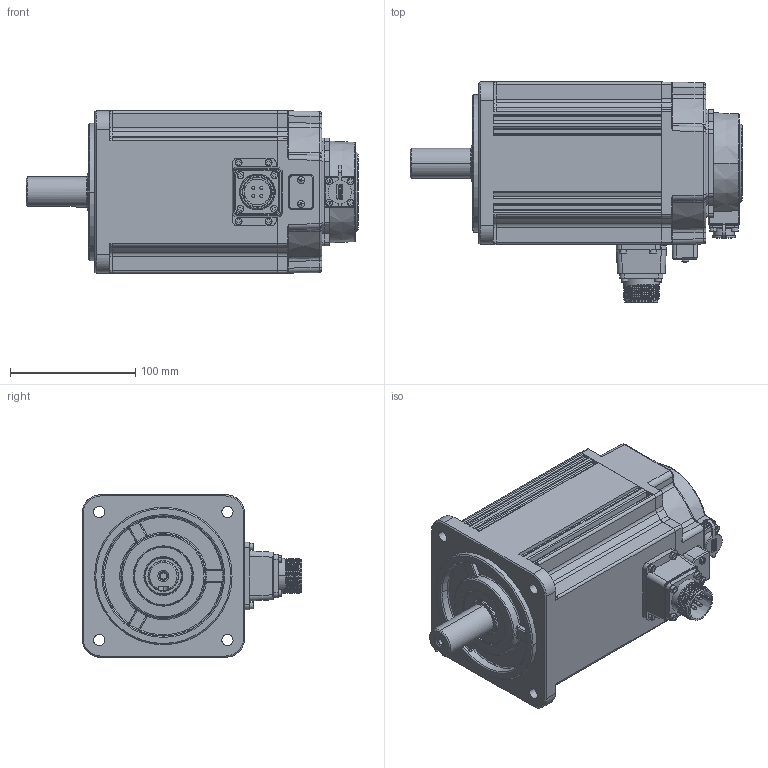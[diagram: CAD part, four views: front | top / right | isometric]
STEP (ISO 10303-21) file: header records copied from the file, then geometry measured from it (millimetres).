
FILE_DESCRIPTION(('FreeCAD Model'),'2;1');
FILE_NAME('Open CASCADE Shape Model','2025-03-17T14:23:19',('Author'),( ''),'Open CASCADE STEP processor 7.6','FreeCAD','Unknown');
FILE_SCHEMA(('AUTOMOTIVE_DESIGN { 1 0 10303 214 1 1 1 1 }'));
Length unit declared in the file: millimetre
Products named in the file (46): PSM6G-130CS15BZ2-22P3; PSM6G-130CS15BZ2-22P004; PSM6G-130CS15BZ2-22P005; PSM6G-130CS15BZ2-22P006; PSM6G-130CS15BZ2-22P007; PSM6G-130CS15BZ2-22P008; PSM6G-130CS15BZ2-22P009; PSM6G-130CS15BZ2-22P010; PSM6G-130CS15BZ2-22P011; PSM6G-130CS15BZ2-22P012; PSM6G-130CS15BZ2-22P013; PSM6G-130CS15BZ2-22P014; PSM6G-130CS15BZ2-22P015; PSM6G-130CS15BZ2-22P016; PSM6G-130CS15BZ2-22P017; PSM6G-130CS15BZ2-22P018; PSM6G-130CS15BZ2-22P019; PSM6G-130CS15BZ2-22P020; PSM6G-130CS15BZ2-22P021; PSM6G-130CS15BZ2-22P022; PSM6G-130CS15BZ2-22P023; PSM6G-130CS15BZ2-22P024; PSM6G-130CS15BZ2-22P025; PSM6G-130CS15BZ2-22P026; PSM6G-130CS15BZ2-22P027; PSM6G-130CS15BZ2-22P028; PSM6G-130CS15BZ2-22P029; PSM6G-130CS15BZ2-22P030; PSM6G-130CS15BZ2-22P031; PSM6G-130CS15BZ2-22P032; PSM6G-130CS15BZ2-22P033; PSM6G-130CS15BZ2-22P034; PSM6G-130CS15BZ2-22P035; PSM6G-130CS15BZ2-22P036; PSM6G-130CS15BZ2-22P037; PSM6G-130CS15BZ2-22P038; PSM6G-130CS15BZ2-22P039; PSM6G-130CS15BZ2-22P040; PSM6G-130CS15BZ2-22P041; PSM6G-130CS15BZ2-22P042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
Assembly tree (45 placements, depth 2):
  PSM6G-130CS15BZ2-22P3
    PSM6G-130CS15BZ2-22P004
    PSM6G-130CS15BZ2-22P005
    PSM6G-130CS15BZ2-22P006
    PSM6G-130CS15BZ2-22P007
    PSM6G-130CS15BZ2-22P008
    PSM6G-130CS15BZ2-22P009
    PSM6G-130CS15BZ2-22P010
    PSM6G-130CS15BZ2-22P011
    PSM6G-130CS15BZ2-22P012
    PSM6G-130CS15BZ2-22P013
    PSM6G-130CS15BZ2-22P014
    PSM6G-130CS15BZ2-22P015
    PSM6G-130CS15BZ2-22P016
    PSM6G-130CS15BZ2-22P017
    PSM6G-130CS15BZ2-22P018
    PSM6G-130CS15BZ2-22P019
    PSM6G-130CS15BZ2-22P020
    PSM6G-130CS15BZ2-22P021
    PSM6G-130CS15BZ2-22P022
    PSM6G-130CS15BZ2-22P023
    PSM6G-130CS15BZ2-22P024
    PSM6G-130CS15BZ2-22P025
    PSM6G-130CS15BZ2-22P026
    PSM6G-130CS15BZ2-22P027
    PSM6G-130CS15BZ2-22P028
    PSM6G-130CS15BZ2-22P029
    PSM6G-130CS15BZ2-22P030
    PSM6G-130CS15BZ2-22P031
    PSM6G-130CS15BZ2-22P032
    PSM6G-130CS15BZ2-22P033
    PSM6G-130CS15BZ2-22P034
    PSM6G-130CS15BZ2-22P035
    PSM6G-130CS15BZ2-22P036
    PSM6G-130CS15BZ2-22P037
    PSM6G-130CS15BZ2-22P038
    PSM6G-130CS15BZ2-22P039
    PSM6G-130CS15BZ2-22P040
    PSM6G-130CS15BZ2-22P041
    PSM6G-130CS15BZ2-22P042
    PSM6G-130CS15BZ2-22P043
    PSM6G-130CS15BZ2-22P044
    PSM6G-130CS15BZ2-22P045
    PSM6G-130CS15BZ2-22P046
    PSM6G-130CS15BZ2-22P047
    PSM6G-130CS15BZ2-22P048
Bounding box: 265.5 x 175.9 x 130 mm (x, y, z)
Surface area: 172495.4 mm2 (no closed solid volume)
Topology: 0 solids, 45 shells, 921 faces, 3108 edges, 2191 vertices
Faces by surface type: plane 345, cylinder 312, bspline 115, cone 73, torus 72, sphere 4
Entity records: 48173 total; most frequent: CARTESIAN_POINT 21488, ORIENTED_EDGE 5188, DIRECTION 5038, EDGE_CURVE 3099, VERTEX_POINT 2191, AXIS2_PLACEMENT_3D 1844, LINE 1350, VECTOR 1350
